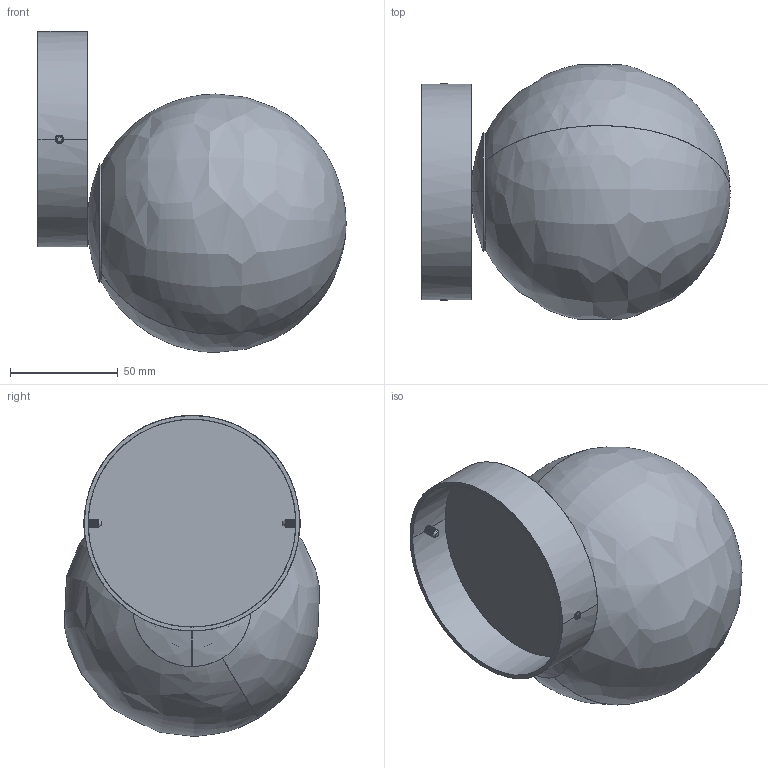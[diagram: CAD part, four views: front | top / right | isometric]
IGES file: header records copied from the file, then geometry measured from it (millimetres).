
Start section: SolidWorks IGES file using NURBS representation for surfaces
Global section: file name: Z:\Modele 3D_WWW\_KOLEKCJE_WWW\ICE-BALL-8126\ICE-BALL-8126.IGS; native system: SolidWorks 2021; preprocessor: SolidWorks 2021; author: gabriela.tworek; date: 210928.084348; units: millimetre
Bounding box: 143.05 x 118.33 x 148.99 mm (x, y, z)
Surface area: 118541 mm2 (no closed solid volume)
Topology: 0 solids, 0 shells, 103 faces, 2312 edges, 2306 vertices
Faces by surface type: bspline 103
